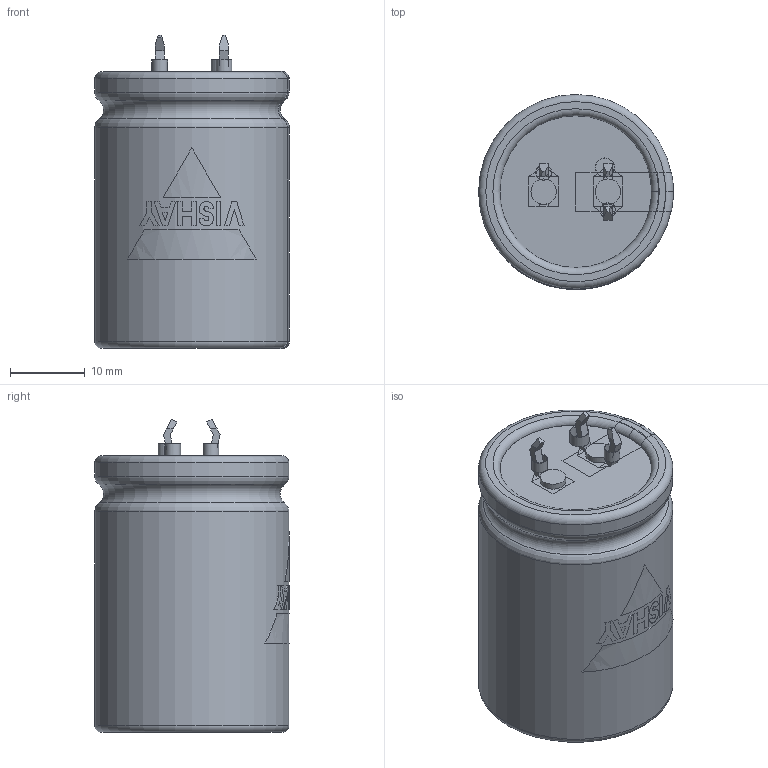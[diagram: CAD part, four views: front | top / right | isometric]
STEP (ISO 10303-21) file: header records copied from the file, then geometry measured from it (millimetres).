
FILE_DESCRIPTION(('FreeCAD Model'),'2;1');
FILE_NAME( 'C:/Users/Gebruiker/Documents/FreeCAD/SnapIn_25x35_3pin_4.0.step', '2020-11-12T21:08:56',('Author'),(''), 'Open CASCADE STEP processor 6.8','FreeCAD','Unknown');
FILE_SCHEMA(('AUTOMOTIVE_DESIGN_CC2 { 1 2 10303 214 -1 1 5 4 }'));
Length unit declared in the file: millimetre
Products named in the file (9): ASSEMBLY; TerminalPlus; Disc; BottomInsulation; Can3D; InkMinusBar; InkLogo; TerminalMinKP; PCBHolesKP
Assembly tree (8 placements, depth 2):
  ASSEMBLY
    TerminalPlus
    Disc
    BottomInsulation
    Can3D
    InkMinusBar
    InkLogo
    TerminalMinKP
    PCBHolesKP
Bounding box: 26.05 x 26.05 x 41.95 mm (x, y, z)
Volume: 22162.4 mm3; surface area: 9904.4 mm2
Topology: 17 solids, 17 shells, 208 faces, 509 edges, 332 vertices
Faces by surface type: plane 159, cylinder 31, torus 18
Full cylindrical faces by diameter (mm): 2 x2, 2.1 x2, 2.5 x1, 2.6 x1, 3.4 x2, 20.3 x1, 20.8 x2, 26 x2
Entity records: 21022 total; most frequent: CARTESIAN_POINT 9642, DIRECTION 1768, ORIENTED_EDGE 1018, PCURVE 1018, DEFINITIONAL_REPRESENTATION 1018, LINE 989, VECTOR 989, EDGE_CURVE 509
